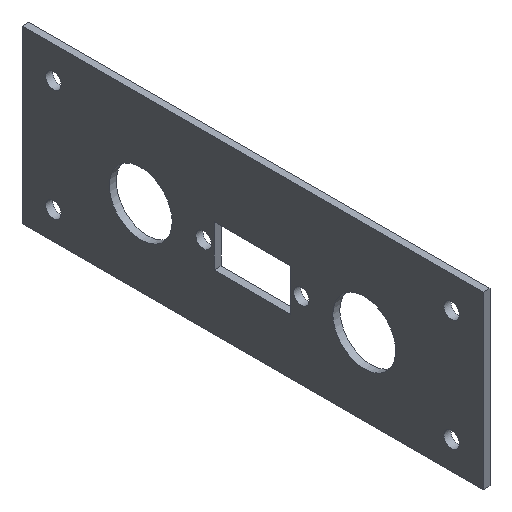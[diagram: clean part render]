
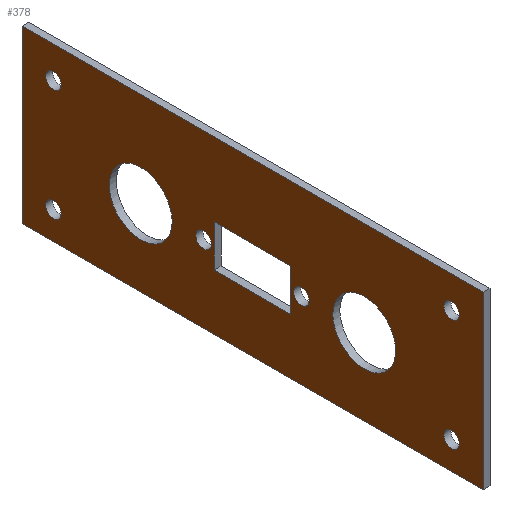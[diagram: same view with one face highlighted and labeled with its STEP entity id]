
A CAD part, isometric view. The second image highlights one B-rep face of the part: STEP entity #378.
In plain terms, the highlighted planar face has unit normal (-1, 0, 0).
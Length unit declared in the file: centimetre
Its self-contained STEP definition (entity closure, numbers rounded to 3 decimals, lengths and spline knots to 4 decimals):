
#24=FACE_BOUND('',#88,.T.);
#25=FACE_BOUND('',#89,.T.);
#26=FACE_BOUND('',#90,.T.);
#27=FACE_BOUND('',#91,.T.);
#28=FACE_BOUND('',#92,.T.);
#29=FACE_BOUND('',#93,.T.);
#30=FACE_BOUND('',#94,.T.);
#31=FACE_BOUND('',#95,.T.);
#32=FACE_BOUND('',#96,.T.);
#42=PLANE('',#426);
#60=FACE_OUTER_BOUND('',#87,.T.);
#87=EDGE_LOOP('',(#337,#338,#339,#340));
#88=EDGE_LOOP('',(#341));
#89=EDGE_LOOP('',(#342,#343,#344,#345));
#90=EDGE_LOOP('',(#346));
#91=EDGE_LOOP('',(#347));
#92=EDGE_LOOP('',(#348));
#93=EDGE_LOOP('',(#349));
#94=EDGE_LOOP('',(#350));
#95=EDGE_LOOP('',(#351));
#96=EDGE_LOOP('',(#352));
#106=LINE('',#579,#138);
#109=LINE('',#585,#141);
#112=LINE('',#591,#144);
#115=LINE('',#595,#147);
#119=LINE('',#609,#151);
#122=LINE('',#615,#154);
#125=LINE('',#621,#157);
#128=LINE('',#625,#160);
#138=VECTOR('',#482,1.);
#141=VECTOR('',#487,1.);
#144=VECTOR('',#492,1.);
#147=VECTOR('',#497,1.);
#151=VECTOR('',#509,1.);
#154=VECTOR('',#514,1.);
#157=VECTOR('',#519,1.);
#160=VECTOR('',#524,1.);
#161=CIRCLE('',#394,0.11);
#163=CIRCLE('',#397,0.45);
#165=CIRCLE('',#400,0.45);
#167=CIRCLE('',#403,0.11);
#169=CIRCLE('',#406,0.11);
#171=CIRCLE('',#409,0.11);
#173=CIRCLE('',#412,0.11);
#175=CIRCLE('',#419,0.11);
#177=VERTEX_POINT('',#531);
#179=VERTEX_POINT('',#537);
#181=VERTEX_POINT('',#543);
#183=VERTEX_POINT('',#549);
#185=VERTEX_POINT('',#555);
#187=VERTEX_POINT('',#561);
#189=VERTEX_POINT('',#567);
#193=VERTEX_POINT('',#576);
#194=VERTEX_POINT('',#578);
#196=VERTEX_POINT('',#584);
#198=VERTEX_POINT('',#590);
#199=VERTEX_POINT('',#597);
#203=VERTEX_POINT('',#606);
#204=VERTEX_POINT('',#608);
#206=VERTEX_POINT('',#614);
#208=VERTEX_POINT('',#620);
#209=EDGE_CURVE('',#177,#177,#161,.T.);
#212=EDGE_CURVE('',#179,#179,#163,.T.);
#215=EDGE_CURVE('',#181,#181,#165,.T.);
#218=EDGE_CURVE('',#183,#183,#167,.T.);
#221=EDGE_CURVE('',#185,#185,#169,.T.);
#224=EDGE_CURVE('',#187,#187,#171,.T.);
#227=EDGE_CURVE('',#189,#189,#173,.T.);
#232=EDGE_CURVE('',#194,#193,#106,.T.);
#235=EDGE_CURVE('',#196,#194,#109,.T.);
#238=EDGE_CURVE('',#198,#196,#112,.T.);
#241=EDGE_CURVE('',#193,#198,#115,.T.);
#242=EDGE_CURVE('',#199,#199,#175,.T.);
#247=EDGE_CURVE('',#204,#203,#119,.T.);
#250=EDGE_CURVE('',#206,#204,#122,.T.);
#253=EDGE_CURVE('',#208,#206,#125,.T.);
#256=EDGE_CURVE('',#203,#208,#128,.T.);
#337=ORIENTED_EDGE('',*,*,#256,.T.);
#338=ORIENTED_EDGE('',*,*,#253,.T.);
#339=ORIENTED_EDGE('',*,*,#250,.T.);
#340=ORIENTED_EDGE('',*,*,#247,.T.);
#341=ORIENTED_EDGE('',*,*,#242,.T.);
#342=ORIENTED_EDGE('',*,*,#238,.T.);
#343=ORIENTED_EDGE('',*,*,#235,.T.);
#344=ORIENTED_EDGE('',*,*,#232,.T.);
#345=ORIENTED_EDGE('',*,*,#241,.T.);
#346=ORIENTED_EDGE('',*,*,#227,.T.);
#347=ORIENTED_EDGE('',*,*,#224,.T.);
#348=ORIENTED_EDGE('',*,*,#221,.T.);
#349=ORIENTED_EDGE('',*,*,#218,.T.);
#350=ORIENTED_EDGE('',*,*,#215,.T.);
#351=ORIENTED_EDGE('',*,*,#212,.T.);
#352=ORIENTED_EDGE('',*,*,#209,.T.);
#378=ADVANCED_FACE('',(#60,#24,#25,#26,#27,#28,#29,#30,#31,#32),#42,.T.);
#394=AXIS2_PLACEMENT_3D('',#532,#431,#432);
#397=AXIS2_PLACEMENT_3D('',#538,#438,#439);
#400=AXIS2_PLACEMENT_3D('',#544,#445,#446);
#403=AXIS2_PLACEMENT_3D('',#550,#452,#453);
#406=AXIS2_PLACEMENT_3D('',#556,#459,#460);
#409=AXIS2_PLACEMENT_3D('',#562,#466,#467);
#412=AXIS2_PLACEMENT_3D('',#568,#473,#474);
#419=AXIS2_PLACEMENT_3D('',#598,#500,#501);
#426=AXIS2_PLACEMENT_3D('',#627,#527,#528);
#431=DIRECTION('center_axis',(1.,0.,0.));
#432=DIRECTION('ref_axis',(0.,0.,-1.));
#438=DIRECTION('center_axis',(1.,0.,0.));
#439=DIRECTION('ref_axis',(0.,0.,-1.));
#445=DIRECTION('center_axis',(1.,0.,0.));
#446=DIRECTION('ref_axis',(0.,0.,-1.));
#452=DIRECTION('center_axis',(1.,0.,0.));
#453=DIRECTION('ref_axis',(0.,0.,-1.));
#459=DIRECTION('center_axis',(1.,0.,0.));
#460=DIRECTION('ref_axis',(0.,0.,-1.));
#466=DIRECTION('center_axis',(1.,0.,0.));
#467=DIRECTION('ref_axis',(0.,0.,-1.));
#473=DIRECTION('center_axis',(1.,0.,0.));
#474=DIRECTION('ref_axis',(0.,0.,-1.));
#482=DIRECTION('',(0.,1.,0.));
#487=DIRECTION('',(0.,0.,-1.));
#492=DIRECTION('',(0.,-1.,0.));
#497=DIRECTION('',(0.,0.,1.));
#500=DIRECTION('center_axis',(1.,0.,0.));
#501=DIRECTION('ref_axis',(0.,0.,-1.));
#509=DIRECTION('',(0.,-1.,0.));
#514=DIRECTION('',(0.,0.,-1.));
#519=DIRECTION('',(0.,1.,0.));
#524=DIRECTION('',(0.,0.,1.));
#527=DIRECTION('center_axis',(-1.,0.,0.));
#528=DIRECTION('ref_axis',(0.,0.,1.));
#531=CARTESIAN_POINT('',(17.685,-0.7,2.61));
#532=CARTESIAN_POINT('Origin',(17.685,-0.7,2.5));
#537=CARTESIAN_POINT('',(17.685,1.6,2.95));
#538=CARTESIAN_POINT('Origin',(17.685,1.6,2.5));
#543=CARTESIAN_POINT('',(17.685,-1.6,2.95));
#544=CARTESIAN_POINT('Origin',(17.685,-1.6,2.5));
#549=CARTESIAN_POINT('',(17.685,2.85,1.91));
#550=CARTESIAN_POINT('Origin',(17.685,2.85,1.8));
#555=CARTESIAN_POINT('',(17.685,-2.85,3.51));
#556=CARTESIAN_POINT('Origin',(17.685,-2.85,3.4));
#561=CARTESIAN_POINT('',(17.685,2.85,3.51));
#562=CARTESIAN_POINT('Origin',(17.685,2.85,3.4));
#567=CARTESIAN_POINT('',(17.685,-2.85,1.91));
#568=CARTESIAN_POINT('Origin',(17.685,-2.85,1.8));
#576=CARTESIAN_POINT('',(17.685,0.55,2.2));
#578=CARTESIAN_POINT('',(17.685,-0.55,2.2));
#579=CARTESIAN_POINT('',(17.685,-0.275,2.2));
#584=CARTESIAN_POINT('',(17.685,-0.55,2.8));
#585=CARTESIAN_POINT('',(17.685,-0.55,2.7125));
#590=CARTESIAN_POINT('',(17.685,0.55,2.8));
#591=CARTESIAN_POINT('',(17.685,0.275,2.8));
#595=CARTESIAN_POINT('',(17.685,0.55,2.4125));
#597=CARTESIAN_POINT('',(17.685,0.7,2.61));
#598=CARTESIAN_POINT('Origin',(17.685,0.7,2.5));
#606=CARTESIAN_POINT('',(17.685,-3.3,1.4));
#608=CARTESIAN_POINT('',(17.685,3.3,1.4));
#609=CARTESIAN_POINT('',(17.685,-3.3,1.4));
#614=CARTESIAN_POINT('',(17.685,3.3,3.85));
#615=CARTESIAN_POINT('',(17.685,3.3,1.4));
#620=CARTESIAN_POINT('',(17.685,-3.3,3.85));
#621=CARTESIAN_POINT('',(17.685,3.3,3.85));
#625=CARTESIAN_POINT('',(17.685,-3.3,3.85));
#627=CARTESIAN_POINT('Origin',(17.685,0.,2.625));
